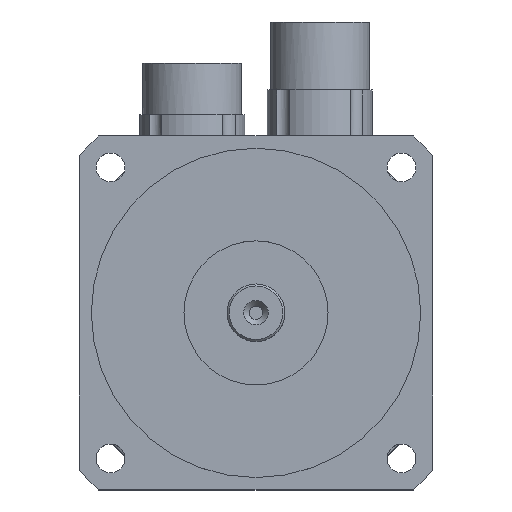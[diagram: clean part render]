
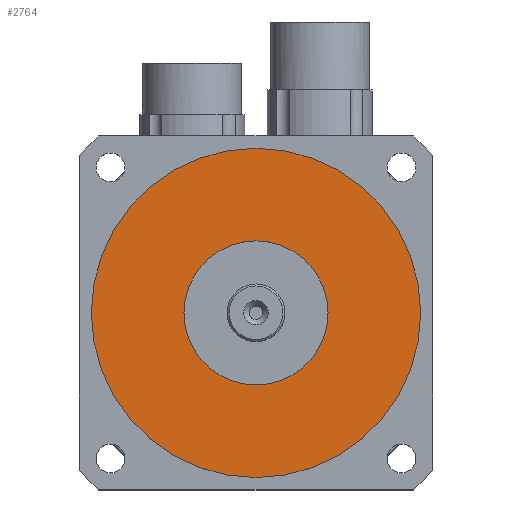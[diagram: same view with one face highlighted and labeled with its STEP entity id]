
A CAD part, top view. The second image highlights one B-rep face of the part: STEP entity #2764.
In plain terms, the highlighted planar face has unit normal (0, 0, 1).
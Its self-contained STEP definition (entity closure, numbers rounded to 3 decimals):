
#244=CIRCLE('',#2934,17.5);
#245=CIRCLE('',#2937,40.);
#476=VERTEX_POINT('',#4474);
#477=VERTEX_POINT('',#4478);
#1192=EDGE_CURVE('',#476,#476,#244,.T.);
#1193=EDGE_CURVE('',#477,#477,#245,.T.);
#1634=ORIENTED_EDGE('',*,*,#1193,.F.);
#1635=ORIENTED_EDGE('',*,*,#1192,.T.);
#2328=EDGE_LOOP('',(#1634));
#2329=EDGE_LOOP('',(#1635));
#2552=FACE_BOUND('',#2328,.T.);
#2553=FACE_BOUND('',#2329,.T.);
#2764=ADVANCED_FACE('',(#2552,#2553),#5332,.F.);
#2934=AXIS2_PLACEMENT_3D('',#4473,#3328,#3329);
#2937=AXIS2_PLACEMENT_3D('',#4477,#3333,#3334);
#2939=AXIS2_PLACEMENT_3D('',#4481,#3337,$);
#3328=DIRECTION('',(0.,0.,-1.));
#3329=DIRECTION('',(-17.5,0.,0.));
#3333=DIRECTION('',(0.,0.,-1.));
#3334=DIRECTION('',(-40.,0.,0.));
#3337=DIRECTION('',(0.,0.,-1.));
#4473=CARTESIAN_POINT('',(0.,0.,177.));
#4474=CARTESIAN_POINT('',(17.5,0.,177.));
#4477=CARTESIAN_POINT('',(0.,0.,177.));
#4478=CARTESIAN_POINT('',(40.,0.,177.));
#4481=CARTESIAN_POINT('',(0.,0.,177.));
#5332=PLANE('',#2939);
